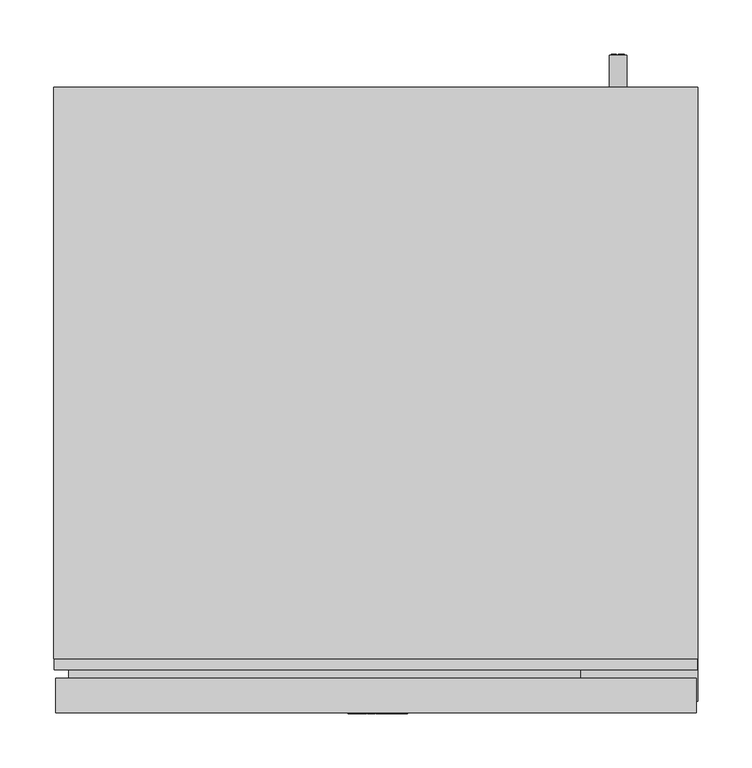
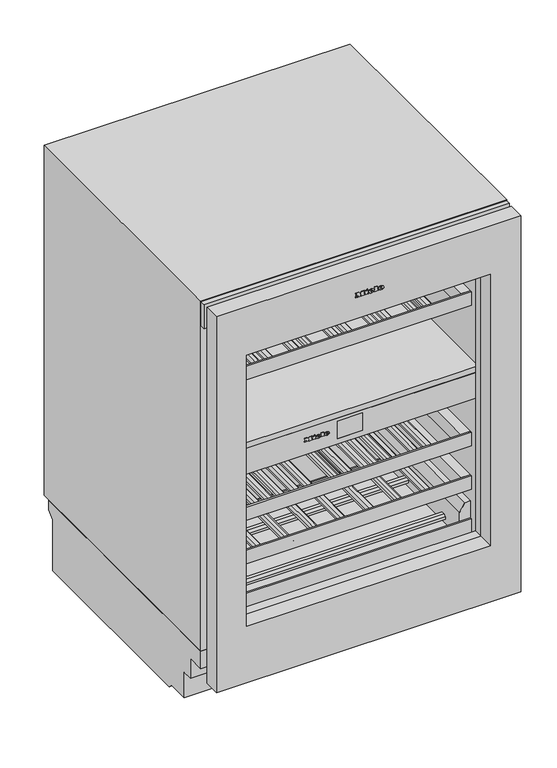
"""IFC4 building model written with IfcOpenShell, lengths in millimetres: proxy geometry, 12519660_EU1_KWTUS7196E_OBSW : 39719610_EU1_12519660_KWTUS7196E_OBSW."""

from ifc_helpers import new_model, si_unit, point, frame, frame_2d, origin, origin_with_axes, place, context, project, spatial, polyline, circle_curve, ellipse_curve, trimmed, segment, composite_curve, outline, extrude, faceted_brep, source, transform, mapped, element, save
from ifc_brep_helpers import plane_surface, cylinder_surface, revolved_surface, extruded_surface, advanced_brep


def specialty_equipment_9c25adbb(model_context):
    return source(origin(), model_context, "Body", "SolidModel", [
        extrude(outline(polyline([(808.991, -25.542), (808.991, -24.453), (802.97, -24.453), (802.97, -25.542), (801.458, -25.542), (801.458, -21.582), (802.97, -21.582), (802.97, -22.662), (806.7921247, -22.662), (801.458, -18.639), (806.8982223, -14.598), (802.97, -14.598), (802.97, -15.705), (801.458, -15.705), (801.458, -8.523), (802.97, -8.523), (802.97, -9.666), (808.991, -9.666), (808.991, -8.523), (810.458, -8.523), (810.458, -14.004), (807.083, -16.632), (810.458, -19.269), (810.458, -25.542), (808.991, -25.542)])), frame((0.0, -1.0, 0.0), z_axis=(0.0, 1.0, 0.0), x_axis=(0.0, 0.0, 1.0)), (0.0, 0.0, 1.0), 1.0),
        extrude(outline(polyline([(808.991, 10.98), (808.991, 12.06), (802.97, 12.06), (802.97, 10.98), (801.458, 10.98), (801.458, 18.279), (802.97, 18.279), (802.97, 17.172), (810.458, 17.172), (810.458, 10.98), (808.991, 10.98)])), frame((0.0, -1.0, 0.0), z_axis=(0.0, 1.0, 0.0), x_axis=(0.0, 0.0, 1.0)), (0.0, 0.0, 1.0), 1.0),
        extrude(outline(polyline([(809.927, -5.382), (808.469, -4.698), (809.891, -1.647), (811.349, -2.322), (809.927, -5.382)])), frame((0.0, -1.0, 0.0), z_axis=(0.0, 1.0, 0.0), x_axis=(0.0, 0.0, 1.0)), (0.0, 0.0, 1.0), 1.0),
        extrude(outline(polyline([(808.271, -7.605), (806.66, -7.605), (806.66, -6.534), (802.97, -6.534), (802.97, -7.605), (801.458, -7.605), (801.458, -0.504), (802.97, -0.504), (802.97, -1.548), (808.271, -1.548), (808.271, -7.605)])), frame((0.0, -1.0, 0.0), z_axis=(0.0, 1.0, 0.0), x_axis=(0.0, 0.0, 1.0)), (0.0, 0.0, 1.0), 1.0),
        advanced_brep(
        [(4.455, -1.0, 803.591), (4.455, -1.0, 804.5), (10.476, -1.0, 804.5), (0.0, -1.0, 804.5), (2.475, -1.0, 801.458), (10.323, -1.0, 803.591), (7.605, -1.0, 803.591), (5.463, -1.0, 802.583), (4.455, -1.0, 805.652), (4.455, -1.0, 806.633), (5.994, -1.0, 806.633), (5.994, -1.0, 805.652), (4.455, 0.0, 803.591), (5.463, 0.0, 802.583), (7.605, 0.0, 803.591), (10.323, 0.0, 803.591), (2.475, 0.0, 801.458), (0.0, 0.0, 804.5), (10.476, 0.0, 804.5), (4.455, 0.0, 804.5), (4.455, 0.0, 805.652), (5.994, 0.0, 805.652), (5.994, 0.0, 806.633), (4.455, 0.0, 806.633)],
        [
            (0, 1),
            (1, 2),
            (2, 3, ellipse_curve(frame((5.238, -1.0, 804.5), z_axis=(0.0, -1.0, 0.0), x_axis=(-1.0, 0.0, 0.0)), 5.238, 4.329)),
            (3, 4, circle_curve(frame((3.4830491, -1.0, 804.806), z_axis=(0.0, -1.0, 0.0), x_axis=(0.0, 0.0, -1.0)), 3.4964649)),
            (4, 5, circle_curve(frame((5.1331428, -1.0, 807.182), z_axis=(0.0, -1.0, 0.0), x_axis=(0.0, 0.0, -1.0)), 6.3110933)),
            (5, 6),
            (6, 7, circle_curve(frame((5.9029412, -1.0, 804.428), z_axis=(0.0, 1.0, 0.0), x_axis=(0.0, 0.0, -1.0)), 1.896727)),
            (7, 0, circle_curve(frame((5.463, -1.0, 803.591), z_axis=(0.0, 1.0, 0.0), x_axis=(0.0, 0.0, -1.0)), 1.008)),
            (8, 9),
            (9, 10, circle_curve(frame((5.2245, -1.0, 806.633), z_axis=(0.0, 1.0, 0.0), x_axis=(0.0, 0.0, -1.0)), 0.7695)),
            (10, 11),
            (11, 8),
            (12, 13, circle_curve(frame((5.463, 0.0, 803.591), z_axis=(0.0, -1.0, 0.0), x_axis=(0.0, 0.0, -1.0)), 1.008)),
            (13, 14, circle_curve(frame((5.9029412, 0.0, 804.428), z_axis=(0.0, -1.0, 0.0), x_axis=(0.0, 0.0, -1.0)), 1.896727)),
            (14, 15),
            (15, 16, circle_curve(frame((5.1331428, 0.0, 807.182), z_axis=(0.0, 1.0, 0.0), x_axis=(0.0, 0.0, -1.0)), 6.3110933)),
            (16, 17, circle_curve(frame((3.4830491, 0.0, 804.806), z_axis=(0.0, 1.0, 0.0), x_axis=(0.0, 0.0, -1.0)), 3.4964649)),
            (17, 18, ellipse_curve(frame((5.238, 0.0, 804.5), z_axis=(0.0, 1.0, 0.0), x_axis=(-1.0, 0.0, 0.0)), 5.238, 4.329)),
            (18, 19),
            (19, 12),
            (20, 21),
            (21, 22),
            (22, 23, circle_curve(frame((5.2245, 0.0, 806.633), z_axis=(0.0, -1.0, 0.0), x_axis=(0.0, 0.0, -1.0)), 0.7695)),
            (23, 20),
            (0, 12),
            (19, 1),
            (18, 2),
            (5, 15),
            (14, 6),
            (17, 3),
            (13, 7),
            (16, 4),
            (8, 20),
            (23, 9),
            (22, 10),
            (21, 11),
        ],
        [
            plane_surface(frame((4.455, -1.0, 804.5), z_axis=(0.0, -1.0, 0.0), x_axis=(0.0, 0.0, 1.0))),
            plane_surface(frame((4.455, 0.0, 804.5), z_axis=(0.0, 1.0, 0.0), x_axis=(0.0, 0.0, -1.0))),
            plane_surface(frame((4.455, -1.0, 803.591), z_axis=(1.0, 0.0, 0.0), x_axis=(0.0, 1.0, 0.0))),
            plane_surface(frame((4.455, -1.0, 804.5), z_axis=(0.0, 0.0, -1.0), x_axis=(0.0, 1.0, 0.0))),
            plane_surface(frame((10.323, -1.0, 803.591), z_axis=(0.0, 0.0, 1.0), x_axis=(0.0, 1.0, 0.0))),
            extruded_surface(trimmed(ellipse_curve(frame((5.238, 1.0, 804.5), z_axis=(0.0, -1.0, 0.0), x_axis=(-1.0, 0.0, 0.0)), 5.238, 4.329), [point((10.476, 1.0, 804.5))], [point((0.0, 1.0, 804.5))], True, "CARTESIAN"), (0.0, -1.0, 0.0), 1.0),
            revolved_surface(polyline([(5.9029412, 0.0, 802.5312729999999), (5.9029412, -1.0, 802.5312729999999)]), (5.9029412, 0.0, 804.428), (0.0, 1.0, 0.0)),
            revolved_surface(polyline([(5.463, 0.0, 802.583), (5.463, -1.0, 802.583)]), (5.463, 0.0, 803.591), (0.0, 1.0, 0.0)),
            cylinder_surface(frame((3.4830491, 0.0, 804.806), z_axis=(0.0, -1.0, 0.0), x_axis=(0.0, 0.0, -1.0)), 3.4964649),
            cylinder_surface(frame((5.1331428, 0.0, 807.182), z_axis=(0.0, -1.0, 0.0), x_axis=(0.0, 0.0, -1.0)), 6.3110933),
            plane_surface(frame((4.455, -1.0, 805.652), z_axis=(1.0, 0.0, 0.0), x_axis=(0.0, 1.0, 0.0))),
            revolved_surface(polyline([(5.2245, 0.0, 805.8635), (5.2245, -1.0, 805.8635)]), (5.2245, 0.0, 806.633), (0.0, 1.0, 0.0)),
            plane_surface(frame((5.994, -1.0, 806.633), z_axis=(-1.0, 0.0, 0.0), x_axis=(0.0, 1.0, 0.0))),
            plane_surface(frame((5.994, -1.0, 805.652), z_axis=(0.0, 0.0, 1.0), x_axis=(0.0, 1.0, 0.0))),
        ],
        [
            (0, [[1, 2, 3, 4, 5, 6, 7, 8], [9, 10, 11, 12]]),
            (1, [[13, 14, 15, 16, 17, 18, 19, 20], [21, 22, 23, 24]]),
            (2, [[-1, 25, -20, 26]]),
            (3, [[-2, -26, -19, 27]]),
            (4, [[-6, 28, -15, 29]]),
            (5, [[-3, -27, -18, 30]]),
            (6, [[-7, -29, -14, 31]]),
            (7, [[-8, -31, -13, -25]]),
            (8, [[-4, -30, -17, 32]]),
            (9, [[-5, -32, -16, -28]]),
            (10, [[-9, 33, -24, 34]]),
            (11, [[-10, -34, -23, 35]]),
            (12, [[-11, -35, -22, 36]]),
            (13, [[-12, -36, -21, -33]]),
        ],
    ),
        advanced_brep(
        [(23.238, -1.0, 803.591), (23.238, -1.0, 804.5), (29.259, -1.0, 804.5), (18.783, -1.0, 804.5), (21.258, -1.0, 801.458), (29.106, -1.0, 803.591), (26.388, -1.0, 803.591), (24.246, -1.0, 802.583), (23.238, -1.0, 805.652), (23.238, -1.0, 806.633), (24.777, -1.0, 806.633), (24.777, -1.0, 805.652), (23.238, 0.0, 803.591), (24.246, 0.0, 802.583), (26.388, 0.0, 803.591), (29.106, 0.0, 803.591), (21.258, 0.0, 801.458), (18.783, 0.0, 804.5), (29.259, 0.0, 804.5), (23.238, 0.0, 804.5), (23.238, 0.0, 805.652), (24.777, 0.0, 805.652), (24.777, 0.0, 806.633), (23.238, 0.0, 806.633)],
        [
            (0, 1),
            (1, 2),
            (2, 3, ellipse_curve(frame((24.021, -1.0, 804.5), z_axis=(0.0, -1.0, 0.0), x_axis=(-1.0, 0.0, 0.0)), 5.238, 4.329)),
            (3, 4, circle_curve(frame((22.2660491, -1.0, 804.806), z_axis=(0.0, -1.0, 0.0), x_axis=(0.0, 0.0, -1.0)), 3.4964649)),
            (4, 5, circle_curve(frame((23.9161428, -1.0, 807.182), z_axis=(0.0, -1.0, 0.0), x_axis=(0.0, 0.0, -1.0)), 6.3110933)),
            (5, 6),
            (6, 7, circle_curve(frame((24.6859412, -1.0, 804.428), z_axis=(0.0, 1.0, 0.0), x_axis=(0.0, 0.0, -1.0)), 1.896727)),
            (7, 0, circle_curve(frame((24.246, -1.0, 803.591), z_axis=(0.0, 1.0, 0.0), x_axis=(0.0, 0.0, -1.0)), 1.008)),
            (8, 9),
            (9, 10, circle_curve(frame((24.0075, -1.0, 806.633), z_axis=(0.0, 1.0, 0.0), x_axis=(0.0, 0.0, -1.0)), 0.7695)),
            (10, 11),
            (11, 8),
            (12, 13, circle_curve(frame((24.246, 0.0, 803.591), z_axis=(0.0, -1.0, 0.0), x_axis=(0.0, 0.0, -1.0)), 1.008)),
            (13, 14, circle_curve(frame((24.6859412, 0.0, 804.428), z_axis=(0.0, -1.0, 0.0), x_axis=(0.0, 0.0, -1.0)), 1.896727)),
            (14, 15),
            (15, 16, circle_curve(frame((23.9161428, 0.0, 807.182), z_axis=(0.0, 1.0, 0.0), x_axis=(0.0, 0.0, -1.0)), 6.3110933)),
            (16, 17, circle_curve(frame((22.2660491, 0.0, 804.806), z_axis=(0.0, 1.0, 0.0), x_axis=(0.0, 0.0, -1.0)), 3.4964649)),
            (17, 18, ellipse_curve(frame((24.021, 0.0, 804.5), z_axis=(0.0, 1.0, 0.0), x_axis=(-1.0, 0.0, 0.0)), 5.238, 4.329)),
            (18, 19),
            (19, 12),
            (20, 21),
            (21, 22),
            (22, 23, circle_curve(frame((24.0075, 0.0, 806.633), z_axis=(0.0, -1.0, 0.0), x_axis=(0.0, 0.0, -1.0)), 0.7695)),
            (23, 20),
            (0, 12),
            (19, 1),
            (18, 2),
            (5, 15),
            (14, 6),
            (17, 3),
            (13, 7),
            (16, 4),
            (8, 20),
            (23, 9),
            (22, 10),
            (21, 11),
        ],
        [
            plane_surface(frame((23.238, -1.0, 804.5), z_axis=(0.0, -1.0, 0.0), x_axis=(0.0, 0.0, 1.0))),
            plane_surface(frame((23.238, 0.0, 804.5), z_axis=(0.0, 1.0, 0.0), x_axis=(0.0, 0.0, -1.0))),
            plane_surface(frame((23.238, -1.0, 803.591), z_axis=(1.0, 0.0, 0.0), x_axis=(0.0, 1.0, 0.0))),
            plane_surface(frame((23.238, -1.0, 804.5), z_axis=(0.0, 0.0, -1.0), x_axis=(0.0, 1.0, 0.0))),
            plane_surface(frame((29.106, -1.0, 803.591), z_axis=(0.0, 0.0, 1.0), x_axis=(0.0, 1.0, 0.0))),
            extruded_surface(trimmed(ellipse_curve(frame((24.021, 1.0, 804.5), z_axis=(0.0, -1.0, 0.0), x_axis=(-1.0, 0.0, 0.0)), 5.238, 4.329), [point((29.259, 1.0, 804.5))], [point((18.783, 1.0, 804.5))], True, "CARTESIAN"), (0.0, -1.0, 0.0), 1.0),
            revolved_surface(polyline([(24.6859412, 0.0, 802.5312729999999), (24.6859412, -1.0, 802.5312729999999)]), (24.6859412, 0.0, 804.428), (0.0, 1.0, 0.0)),
            revolved_surface(polyline([(24.246, 0.0, 802.583), (24.246, -1.0, 802.583)]), (24.246, 0.0, 803.591), (0.0, 1.0, 0.0)),
            cylinder_surface(frame((22.2660491, 0.0, 804.806), z_axis=(0.0, -1.0, 0.0), x_axis=(0.0, 0.0, -1.0)), 3.4964649),
            cylinder_surface(frame((23.9161428, 0.0, 807.182), z_axis=(0.0, -1.0, 0.0), x_axis=(0.0, 0.0, -1.0)), 6.3110933),
            plane_surface(frame((23.238, -1.0, 805.652), z_axis=(1.0, 0.0, 0.0), x_axis=(0.0, 1.0, 0.0))),
            revolved_surface(polyline([(24.0075, 0.0, 805.8635), (24.0075, -1.0, 805.8635)]), (24.0075, 0.0, 806.633), (0.0, 1.0, 0.0)),
            plane_surface(frame((24.777, -1.0, 806.633), z_axis=(-1.0, 0.0, 0.0), x_axis=(0.0, 1.0, 0.0))),
            plane_surface(frame((24.777, -1.0, 805.652), z_axis=(0.0, 0.0, 1.0), x_axis=(0.0, 1.0, 0.0))),
        ],
        [
            (0, [[1, 2, 3, 4, 5, 6, 7, 8], [9, 10, 11, 12]]),
            (1, [[13, 14, 15, 16, 17, 18, 19, 20], [21, 22, 23, 24]]),
            (2, [[-1, 25, -20, 26]]),
            (3, [[-2, -26, -19, 27]]),
            (4, [[-6, 28, -15, 29]]),
            (5, [[-3, -27, -18, 30]]),
            (6, [[-7, -29, -14, 31]]),
            (7, [[-8, -31, -13, -25]]),
            (8, [[-4, -30, -17, 32]]),
            (9, [[-5, -32, -16, -28]]),
            (10, [[-9, 33, -24, 34]]),
            (11, [[-10, -34, -23, 35]]),
            (12, [[-11, -35, -22, 36]]),
            (13, [[-12, -36, -21, -33]]),
        ],
    ),
        extrude(outline(polyline([(494.1556157, -89.367984), (494.1556157, -88.399984), (488.8036157, -88.399984), (488.8036157, -89.367984), (487.4596157, -89.367984), (487.4596157, -85.847984), (488.8036157, -85.847984), (488.8036157, -86.807984), (492.2067404, -86.807984), (487.4596157, -83.231984), (492.274838, -79.639984), (488.8036157, -79.639984), (488.8036157, -80.623984), (487.4596157, -80.623984), (487.4596157, -74.239984), (488.8036157, -74.239984), (488.8036157, -75.255984), (494.1556157, -75.255984), (494.1556157, -74.239984), (495.4596157, -74.239984), (495.4596157, -79.111984), (492.4596157, -81.447984), (495.4596157, -83.791984), (495.4596157, -89.367984), (494.1556157, -89.367984)])), frame((0.0, 62.0, 0.0), z_axis=(0.0, 1.0, 0.0), x_axis=(0.0, 0.0, 1.0)), (0.0, 0.0, 1.0), 1.0),
        extrude(outline(polyline([(494.1556157, -56.903984), (494.1556157, -55.943984), (488.8036157, -55.943984), (488.8036157, -56.903984), (487.4596157, -56.903984), (487.4596157, -50.415984), (488.8036157, -50.415984), (488.8036157, -51.399984), (495.4596157, -51.399984), (495.4596157, -56.903984), (494.1556157, -56.903984)])), frame((0.0, 62.0, 0.0), z_axis=(0.0, 1.0, 0.0), x_axis=(0.0, 0.0, 1.0)), (0.0, 0.0, 1.0), 1.0),
        extrude(outline(polyline([(494.9876157, -71.447984), (493.6916157, -70.839984), (494.9556157, -68.127984), (496.2516157, -68.727984), (494.9876157, -71.447984)])), frame((0.0, 62.0, 0.0), z_axis=(0.0, 1.0, 0.0), x_axis=(0.0, 0.0, 1.0)), (0.0, 0.0, 1.0), 1.0),
        extrude(outline(polyline([(493.5156157, -73.423984), (492.0836157, -73.423984), (492.0836157, -72.471984), (488.8036157, -72.471984), (488.8036157, -73.423984), (487.4596157, -73.423984), (487.4596157, -67.111984), (488.8036157, -67.111984), (488.8036157, -68.039984), (493.5156157, -68.039984), (493.5156157, -73.423984)])), frame((0.0, 62.0, 0.0), z_axis=(0.0, 1.0, 0.0), x_axis=(0.0, 0.0, 1.0)), (0.0, 0.0, 1.0), 1.0),
        advanced_brep(
        [(-62.703984, 62.0, 489.3556157), (-62.703984, 62.0, 490.1636157), (-57.351984, 62.0, 490.1636157), (-66.663984, 62.0, 490.1636157), (-64.463984, 62.0, 487.4596157), (-57.487984, 62.0, 489.3556157), (-59.903984, 62.0, 489.3556157), (-61.807984, 62.0, 488.4596157), (-62.703984, 62.0, 491.1876157), (-62.703984, 62.0, 492.0596157), (-61.335984, 62.0, 492.0596157), (-61.335984, 62.0, 491.1876157), (-62.703984, 63.0, 489.3556157), (-61.807984, 63.0, 488.4596157), (-59.903984, 63.0, 489.3556157), (-57.487984, 63.0, 489.3556157), (-64.463984, 63.0, 487.4596157), (-66.663984, 63.0, 490.1636157), (-57.351984, 63.0, 490.1636157), (-62.703984, 63.0, 490.1636157), (-62.703984, 63.0, 491.1876157), (-61.335984, 63.0, 491.1876157), (-61.335984, 63.0, 492.0596157), (-62.703984, 63.0, 492.0596157)],
        [
            (0, 1),
            (1, 2),
            (2, 3, ellipse_curve(frame((-62.007984, 62.0, 490.1636157), z_axis=(0.0, -1.0, 0.0), x_axis=(-1.0, 0.0, 0.0)), 4.656, 3.848)),
            (3, 4, circle_curve(frame((-63.5679404, 62.0, 490.4356157), z_axis=(0.0, -1.0, 0.0), x_axis=(0.0, 0.0, -1.0)), 3.1079688)),
            (4, 5, circle_curve(frame((-62.1011904, 62.0, 492.5476157), z_axis=(0.0, -1.0, 0.0), x_axis=(0.0, 0.0, -1.0)), 5.6098607)),
            (5, 6),
            (6, 7, circle_curve(frame((-61.4169252, 62.0, 490.0996157), z_axis=(0.0, 1.0, 0.0), x_axis=(0.0, 0.0, -1.0)), 1.6859795)),
            (7, 0, circle_curve(frame((-61.807984, 62.0, 489.3556157), z_axis=(0.0, 1.0, 0.0), x_axis=(0.0, 0.0, -1.0)), 0.896)),
            (8, 9),
            (9, 10, circle_curve(frame((-62.019984, 62.0, 492.0596157), z_axis=(0.0, 1.0, 0.0), x_axis=(0.0, 0.0, -1.0)), 0.684)),
            (10, 11),
            (11, 8),
            (12, 13, circle_curve(frame((-61.807984, 63.0, 489.3556157), z_axis=(0.0, -1.0, 0.0), x_axis=(0.0, 0.0, -1.0)), 0.896)),
            (13, 14, circle_curve(frame((-61.4169252, 63.0, 490.0996157), z_axis=(0.0, -1.0, 0.0), x_axis=(0.0, 0.0, -1.0)), 1.6859795)),
            (14, 15),
            (15, 16, circle_curve(frame((-62.1011904, 63.0, 492.5476157), z_axis=(0.0, 1.0, 0.0), x_axis=(0.0, 0.0, -1.0)), 5.6098607)),
            (16, 17, circle_curve(frame((-63.5679404, 63.0, 490.4356157), z_axis=(0.0, 1.0, 0.0), x_axis=(0.0, 0.0, -1.0)), 3.1079688)),
            (17, 18, ellipse_curve(frame((-62.007984, 63.0, 490.1636157), z_axis=(0.0, 1.0, 0.0), x_axis=(-1.0, 0.0, 0.0)), 4.656, 3.848)),
            (18, 19),
            (19, 12),
            (20, 21),
            (21, 22),
            (22, 23, circle_curve(frame((-62.019984, 63.0, 492.0596157), z_axis=(0.0, -1.0, 0.0), x_axis=(0.0, 0.0, -1.0)), 0.684)),
            (23, 20),
            (0, 12),
            (19, 1),
            (18, 2),
            (5, 15),
            (14, 6),
            (17, 3),
            (13, 7),
            (16, 4),
            (8, 20),
            (23, 9),
            (22, 10),
            (21, 11),
        ],
        [
            plane_surface(frame((-62.703984, 62.0, 490.1636157), z_axis=(0.0, -1.0, 0.0), x_axis=(0.0, 0.0, 1.0))),
            plane_surface(frame((-62.703984, 63.0, 490.1636157), z_axis=(0.0, 1.0, 0.0), x_axis=(0.0, 0.0, -1.0))),
            plane_surface(frame((-62.703984, 62.0, 489.3556157), z_axis=(1.0, 0.0, 0.0), x_axis=(0.0, 1.0, 0.0))),
            plane_surface(frame((-62.703984, 62.0, 490.1636157), z_axis=(0.0, 0.0, -1.0), x_axis=(0.0, 1.0, 0.0))),
            plane_surface(frame((-57.487984, 62.0, 489.3556157), z_axis=(0.0, 0.0, 1.0), x_axis=(0.0, 1.0, 0.0))),
            extruded_surface(trimmed(ellipse_curve(frame((-62.007984, 64.0, 490.1636157), z_axis=(0.0, -1.0, 0.0), x_axis=(-1.0, 0.0, 0.0)), 4.656, 3.848), [point((-57.351984, 64.0, 490.1636157))], [point((-66.663984, 64.0, 490.1636157))], True, "CARTESIAN"), (0.0, -1.0, 0.0), 1.0),
            revolved_surface(polyline([(-61.4169252, 63.0, 488.41363620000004), (-61.4169252, 62.0, 488.41363620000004)]), (-61.4169252, 63.0, 490.0996157), (0.0, 1.0, 0.0)),
            revolved_surface(polyline([(-61.807984, 63.0, 488.4596157), (-61.807984, 62.0, 488.4596157)]), (-61.807984, 63.0, 489.3556157), (0.0, 1.0, 0.0)),
            cylinder_surface(frame((-63.5679404, 63.0, 490.4356157), z_axis=(0.0, -1.0, 0.0), x_axis=(0.0, 0.0, -1.0)), 3.1079688),
            cylinder_surface(frame((-62.1011904, 63.0, 492.5476157), z_axis=(0.0, -1.0, 0.0), x_axis=(0.0, 0.0, -1.0)), 5.6098607),
            plane_surface(frame((-62.703984, 62.0, 491.1876157), z_axis=(1.0, 0.0, 0.0), x_axis=(0.0, 1.0, 0.0))),
            revolved_surface(polyline([(-62.019984, 63.0, 491.37561569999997), (-62.019984, 62.0, 491.37561569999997)]), (-62.019984, 63.0, 492.0596157), (0.0, 1.0, 0.0)),
            plane_surface(frame((-61.335984, 62.0, 492.0596157), z_axis=(-1.0, 0.0, 0.0), x_axis=(0.0, 1.0, 0.0))),
            plane_surface(frame((-61.335984, 62.0, 491.1876157), z_axis=(0.0, 0.0, 1.0), x_axis=(0.0, 1.0, 0.0))),
        ],
        [
            (0, [[1, 2, 3, 4, 5, 6, 7, 8], [9, 10, 11, 12]]),
            (1, [[13, 14, 15, 16, 17, 18, 19, 20], [21, 22, 23, 24]]),
            (2, [[-1, 25, -20, 26]]),
            (3, [[-2, -26, -19, 27]]),
            (4, [[-6, 28, -15, 29]]),
            (5, [[-3, -27, -18, 30]]),
            (6, [[-7, -29, -14, 31]]),
            (7, [[-8, -31, -13, -25]]),
            (8, [[-4, -30, -17, 32]]),
            (9, [[-5, -32, -16, -28]]),
            (10, [[-9, 33, -24, 34]]),
            (11, [[-10, -34, -23, 35]]),
            (12, [[-11, -35, -22, 36]]),
            (13, [[-12, -36, -21, -33]]),
        ],
    ),
        advanced_brep(
        [(-46.007984, 62.0, 489.3556157), (-46.007984, 62.0, 490.1636157), (-40.655984, 62.0, 490.1636157), (-49.967984, 62.0, 490.1636157), (-47.767984, 62.0, 487.4596157), (-40.791984, 62.0, 489.3556157), (-43.207984, 62.0, 489.3556157), (-45.111984, 62.0, 488.4596157), (-46.007984, 62.0, 491.1876157), (-46.007984, 62.0, 492.0596157), (-44.639984, 62.0, 492.0596157), (-44.639984, 62.0, 491.1876157), (-46.007984, 63.0, 489.3556157), (-45.111984, 63.0, 488.4596157), (-43.207984, 63.0, 489.3556157), (-40.791984, 63.0, 489.3556157), (-47.767984, 63.0, 487.4596157), (-49.967984, 63.0, 490.1636157), (-40.655984, 63.0, 490.1636157), (-46.007984, 63.0, 490.1636157), (-46.007984, 63.0, 491.1876157), (-44.639984, 63.0, 491.1876157), (-44.639984, 63.0, 492.0596157), (-46.007984, 63.0, 492.0596157)],
        [
            (0, 1),
            (1, 2),
            (2, 3, ellipse_curve(frame((-45.311984, 62.0, 490.1636157), z_axis=(0.0, -1.0, 0.0), x_axis=(-1.0, 0.0, 0.0)), 4.656, 3.848)),
            (3, 4, circle_curve(frame((-46.8719404, 62.0, 490.4356157), z_axis=(0.0, -1.0, 0.0), x_axis=(0.0, 0.0, -1.0)), 3.1079688)),
            (4, 5, circle_curve(frame((-45.4051904, 62.0, 492.5476157), z_axis=(0.0, -1.0, 0.0), x_axis=(0.0, 0.0, -1.0)), 5.6098607)),
            (5, 6),
            (6, 7, circle_curve(frame((-44.7209252, 62.0, 490.0996157), z_axis=(0.0, 1.0, 0.0), x_axis=(0.0, 0.0, -1.0)), 1.6859795)),
            (7, 0, circle_curve(frame((-45.111984, 62.0, 489.3556157), z_axis=(0.0, 1.0, 0.0), x_axis=(0.0, 0.0, -1.0)), 0.896)),
            (8, 9),
            (9, 10, circle_curve(frame((-45.323984, 62.0, 492.0596157), z_axis=(0.0, 1.0, 0.0), x_axis=(0.0, 0.0, -1.0)), 0.684)),
            (10, 11),
            (11, 8),
            (12, 13, circle_curve(frame((-45.111984, 63.0, 489.3556157), z_axis=(0.0, -1.0, 0.0), x_axis=(0.0, 0.0, -1.0)), 0.896)),
            (13, 14, circle_curve(frame((-44.7209252, 63.0, 490.0996157), z_axis=(0.0, -1.0, 0.0), x_axis=(0.0, 0.0, -1.0)), 1.6859795)),
            (14, 15),
            (15, 16, circle_curve(frame((-45.4051904, 63.0, 492.5476157), z_axis=(0.0, 1.0, 0.0), x_axis=(0.0, 0.0, -1.0)), 5.6098607)),
            (16, 17, circle_curve(frame((-46.8719404, 63.0, 490.4356157), z_axis=(0.0, 1.0, 0.0), x_axis=(0.0, 0.0, -1.0)), 3.1079688)),
            (17, 18, ellipse_curve(frame((-45.311984, 63.0, 490.1636157), z_axis=(0.0, 1.0, 0.0), x_axis=(-1.0, 0.0, 0.0)), 4.656, 3.848)),
            (18, 19),
            (19, 12),
            (20, 21),
            (21, 22),
            (22, 23, circle_curve(frame((-45.323984, 63.0, 492.0596157), z_axis=(0.0, -1.0, 0.0), x_axis=(0.0, 0.0, -1.0)), 0.684)),
            (23, 20),
            (0, 12),
            (19, 1),
            (18, 2),
            (5, 15),
            (14, 6),
            (17, 3),
            (13, 7),
            (16, 4),
            (8, 20),
            (23, 9),
            (22, 10),
            (21, 11),
        ],
        [
            plane_surface(frame((-46.007984, 62.0, 490.1636157), z_axis=(0.0, -1.0, 0.0), x_axis=(0.0, 0.0, 1.0))),
            plane_surface(frame((-46.007984, 63.0, 490.1636157), z_axis=(0.0, 1.0, 0.0), x_axis=(0.0, 0.0, -1.0))),
            plane_surface(frame((-46.007984, 62.0, 489.3556157), z_axis=(1.0, 0.0, 0.0), x_axis=(0.0, 1.0, 0.0))),
            plane_surface(frame((-46.007984, 62.0, 490.1636157), z_axis=(0.0, 0.0, -1.0), x_axis=(0.0, 1.0, 0.0))),
            plane_surface(frame((-40.791984, 62.0, 489.3556157), z_axis=(0.0, 0.0, 1.0), x_axis=(0.0, 1.0, 0.0))),
            extruded_surface(trimmed(ellipse_curve(frame((-45.311984, 64.0, 490.1636157), z_axis=(0.0, -1.0, 0.0), x_axis=(-1.0, 0.0, 0.0)), 4.656, 3.848), [point((-40.655984, 64.0, 490.1636157))], [point((-49.967984, 64.0, 490.1636157))], True, "CARTESIAN"), (0.0, -1.0, 0.0), 1.0),
            revolved_surface(polyline([(-44.7209252, 63.0, 488.41363620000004), (-44.7209252, 62.0, 488.41363620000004)]), (-44.7209252, 63.0, 490.0996157), (0.0, 1.0, 0.0)),
            revolved_surface(polyline([(-45.111984, 63.0, 488.4596157), (-45.111984, 62.0, 488.4596157)]), (-45.111984, 63.0, 489.3556157), (0.0, 1.0, 0.0)),
            cylinder_surface(frame((-46.8719404, 63.0, 490.4356157), z_axis=(0.0, -1.0, 0.0), x_axis=(0.0, 0.0, -1.0)), 3.1079688),
            cylinder_surface(frame((-45.4051904, 63.0, 492.5476157), z_axis=(0.0, -1.0, 0.0), x_axis=(0.0, 0.0, -1.0)), 5.6098607),
            plane_surface(frame((-46.007984, 62.0, 491.1876157), z_axis=(1.0, 0.0, 0.0), x_axis=(0.0, 1.0, 0.0))),
            revolved_surface(polyline([(-45.323984, 63.0, 491.37561569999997), (-45.323984, 62.0, 491.37561569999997)]), (-45.323984, 63.0, 492.0596157), (0.0, 1.0, 0.0)),
            plane_surface(frame((-44.639984, 62.0, 492.0596157), z_axis=(-1.0, 0.0, 0.0), x_axis=(0.0, 1.0, 0.0))),
            plane_surface(frame((-44.639984, 62.0, 491.1876157), z_axis=(0.0, 0.0, 1.0), x_axis=(0.0, 1.0, 0.0))),
        ],
        [
            (0, [[1, 2, 3, 4, 5, 6, 7, 8], [9, 10, 11, 12]]),
            (1, [[13, 14, 15, 16, 17, 18, 19, 20], [21, 22, 23, 24]]),
            (2, [[-1, 25, -20, 26]]),
            (3, [[-2, -26, -19, 27]]),
            (4, [[-6, 28, -15, 29]]),
            (5, [[-3, -27, -18, 30]]),
            (6, [[-7, -29, -14, 31]]),
            (7, [[-8, -31, -13, -25]]),
            (8, [[-4, -30, -17, 32]]),
            (9, [[-5, -32, -16, -28]]),
            (10, [[-9, 33, -24, 34]]),
            (11, [[-10, -34, -23, 35]]),
            (12, [[-11, -35, -22, 36]]),
            (13, [[-12, -36, -21, -33]]),
        ],
    ),
        extrude(outline(polyline([(278.8, -157.5), (283.5052612, -157.5), (287.5052612, -161.5), (287.5052612, -168.5), (283.5052612, -172.5), (278.8, -172.5), (278.8, -157.5)])), frame((0.0, 68.5000244, 0.0), z_axis=(0.0, 1.0, 0.0), x_axis=(0.0, 0.0, 1.0)), (0.0, 0.0, 1.0), 419.111792),
        extrude(outline(polyline([(278.8, -102.5), (283.5052612, -102.5), (287.5052612, -106.5), (287.5052612, -113.5), (283.5052612, -117.5), (278.8, -117.5), (278.8, -102.5)])), frame((0.0, 68.5000244, 0.0), z_axis=(0.0, 1.0, 0.0), x_axis=(0.0, 0.0, 1.0)), (0.0, 0.0, 1.0), 419.111792),
        extrude(outline(polyline([(278.8, 157.5), (278.8, 172.5), (283.5052612, 172.5), (287.5052612, 168.5), (287.5052612, 161.5), (283.5052612, 157.5), (278.8, 157.5)])), frame((0.0, 68.5000244, 0.0), z_axis=(0.0, 1.0, 0.0), x_axis=(0.0, 0.0, 1.0)), (0.0, 0.0, 1.0), 419.111792),
        extrude(outline(polyline([(278.8, 102.5), (278.8, 117.5), (283.5052612, 117.5), (287.5052612, 113.5), (287.5052612, 106.5), (283.5052612, 102.5), (278.8, 102.5)])), frame((0.0, 68.5000244, 0.0), z_axis=(0.0, 1.0, 0.0), x_axis=(0.0, 0.0, 1.0)), (0.0, 0.0, 1.0), 419.111792),
        extrude(outline(polyline([(278.8, -47.5), (283.5052612, -47.5), (287.5052612, -51.5), (287.5052612, -58.5), (283.5052612, -62.5), (278.8, -62.5), (278.8, -47.5)])), frame((0.0, 68.5000244, 0.0), z_axis=(0.0, 1.0, 0.0), x_axis=(0.0, 0.0, 1.0)), (0.0, 0.0, 1.0), 419.111792),
        extrude(outline(polyline([(278.8, 47.5), (278.8, 62.5), (283.5052612, 62.5), (287.5052612, 58.5), (287.5052612, 51.5), (283.5052612, 47.5), (278.8, 47.5)])), frame((0.0, 68.5000244, 0.0), z_axis=(0.0, 1.0, 0.0), x_axis=(0.0, 0.0, 1.0)), (0.0, 0.0, 1.0), 419.111792),
        extrude(outline(polyline([(278.8, 7.5), (283.5052612, 7.5), (287.5052612, 3.5), (287.5052612, -3.5), (283.5052612, -7.5), (278.8, -7.5), (278.8, 7.5)])), frame((0.0, 68.5000244, 0.0), z_axis=(0.0, 1.0, 0.0), x_axis=(0.0, 0.0, 1.0)), (0.0, 0.0, 1.0), 419.111792),
        extrude(outline(polyline([(238.5, 65.0000244), (-238.5, 65.0000244), (-238.5, 68.5000244), (238.5, 68.5000244), (238.5, 65.0000244)])), frame((0.0, 0.0, 186.0), z_axis=(0.0, 0.0, 1.0), x_axis=(1.0, 0.0, 0.0)), (0.0, 0.0, 1.0), 27.5),
        extrude(outline(polyline([(249.0, -226.9226475), (249.0, -238.5), (181.0206134, -238.5), (181.0206134, -216.8069153), (231.4790485, -216.8069153), (249.0, -226.9226475)])), frame((0.0, 68.5000244, 0.0), z_axis=(0.0, 1.0, 0.0), x_axis=(0.0, 0.0, 1.0)), (0.0, 0.0, 1.0), 294.1981801),
        extrude(outline(polyline([(249.0, 226.9226475), (231.4790485, 216.8069153), (181.0206134, 216.8069153), (181.0206134, 238.5), (249.0, 238.5), (249.0, 226.9226475)])), frame((0.0, 68.5000244, 0.0), z_axis=(0.0, 1.0, 0.0), x_axis=(0.0, 0.0, 1.0)), (0.0, 0.0, 1.0), 294.1981801),
        extrude(outline(polyline([(238.5, 65.0000244), (-238.5, 65.0000244), (-238.5, 68.5000244), (238.5, 68.5000244), (238.5, 65.0000244)])), frame((0.0, 0.0, 364.0), z_axis=(0.0, 0.0, 1.0), x_axis=(1.0, 0.0, 0.0)), (0.0, 0.0, 1.0), 27.5),
        extrude(outline(polyline([(658.2947388, -160.4764937), (663.0, -160.4764937), (667.0, -164.4764937), (667.0, -171.4764937), (663.0, -175.4764937), (658.2947388, -175.4764937), (658.2947388, -160.4764937)])), frame((0.0, 68.5000244, 0.0), z_axis=(0.0, 1.0, 0.0), x_axis=(0.0, 0.0, 1.0)), (0.0, 0.0, 1.0), 419.111792),
        extrude(outline(polyline([(658.2947388, -134.5453754), (663.0, -134.5453754), (667.0, -138.5453754), (667.0, -145.5453754), (663.0, -149.5453754), (658.2947388, -149.5453754), (658.2947388, -134.5453754)])), frame((0.0, 68.5000244, 0.0), z_axis=(0.0, 1.0, 0.0), x_axis=(0.0, 0.0, 1.0)), (0.0, 0.0, 1.0), 419.111792),
        extrude(outline(polyline([(658.2947388, -82.9166641), (663.0, -82.9166641), (667.0, -86.9166641), (667.0, -93.9166641), (663.0, -97.9166641), (658.2947388, -97.9166641), (658.2947388, -82.9166641)])), frame((0.0, 68.5000244, 0.0), z_axis=(0.0, 1.0, 0.0), x_axis=(0.0, 0.0, 1.0)), (0.0, 0.0, 1.0), 419.111792),
        extrude(outline(polyline([(658.2947388, -56.9855458), (663.0, -56.9855458), (667.0, -60.9855458), (667.0, -67.9855458), (663.0, -71.9855458), (658.2947388, -71.9855458), (658.2947388, -56.9855458)])), frame((0.0, 68.5000244, 0.0), z_axis=(0.0, 1.0, 0.0), x_axis=(0.0, 0.0, 1.0)), (0.0, 0.0, 1.0), 419.111792),
        extrude(outline(polyline([(658.2947388, 160.4764937), (658.2947388, 175.4764937), (663.0, 175.4764937), (667.0, 171.4764937), (667.0, 164.4764937), (663.0, 160.4764937), (658.2947388, 160.4764937)])), frame((0.0, 68.5000244, 0.0), z_axis=(0.0, 1.0, 0.0), x_axis=(0.0, 0.0, 1.0)), (0.0, 0.0, 1.0), 419.111792),
        extrude(outline(polyline([(658.2947388, 134.5453754), (658.2947388, 149.5453754), (663.0, 149.5453754), (667.0, 145.5453754), (667.0, 138.5453754), (663.0, 134.5453754), (658.2947388, 134.5453754)])), frame((0.0, 68.5000244, 0.0), z_axis=(0.0, 1.0, 0.0), x_axis=(0.0, 0.0, 1.0)), (0.0, 0.0, 1.0), 419.111792),
        extrude(outline(polyline([(658.2947388, 82.9166641), (658.2947388, 97.9166641), (663.0, 97.9166641), (667.0, 93.9166641), (667.0, 86.9166641), (663.0, 82.9166641), (658.2947388, 82.9166641)])), frame((0.0, 68.5000244, 0.0), z_axis=(0.0, 1.0, 0.0), x_axis=(0.0, 0.0, 1.0)), (0.0, 0.0, 1.0), 419.111792),
        extrude(outline(polyline([(658.2947388, 56.9855458), (658.2947388, 71.9855458), (663.0, 71.9855458), (667.0, 67.9855458), (667.0, 60.9855458), (663.0, 56.9855458), (658.2947388, 56.9855458)])), frame((0.0, 68.5000244, 0.0), z_axis=(0.0, 1.0, 0.0), x_axis=(0.0, 0.0, 1.0)), (0.0, 0.0, 1.0), 419.111792),
        extrude(outline(polyline([(658.2947388, -5.416666), (663.0, -5.416666), (667.0, -9.416666), (667.0, -16.416666), (663.0, -20.416666), (658.2947388, -20.416666), (658.2947388, -5.416666)])), frame((0.0, 68.5000244, 0.0), z_axis=(0.0, 1.0, 0.0), x_axis=(0.0, 0.0, 1.0)), (0.0, 0.0, 1.0), 419.111792),
        extrude(outline(polyline([(658.2947388, 20.5144523), (663.0, 20.5144523), (667.0, 16.5144523), (667.0, 9.5144523), (663.0, 5.5144523), (658.2947388, 5.5144523), (658.2947388, 20.5144523)])), frame((0.0, 68.5000244, 0.0), z_axis=(0.0, 1.0, 0.0), x_axis=(0.0, 0.0, 1.0)), (0.0, 0.0, 1.0), 419.111792),
        extrude(outline(polyline([(368.2947388, -160.4166718), (373.0, -160.4166718), (377.0, -164.4166718), (377.0, -171.4166718), (373.0, -175.4166718), (368.2947388, -175.4166718), (368.2947388, -160.4166718)])), frame((0.0, 68.5000244, 0.0), z_axis=(0.0, 1.0, 0.0), x_axis=(0.0, 0.0, 1.0)), (0.0, 0.0, 1.0), 419.111792),
        extrude(outline(polyline([(368.2947388, -134.4855535), (373.0, -134.4855535), (377.0, -138.4855535), (377.0, -145.4855535), (373.0, -149.4855535), (368.2947388, -149.4855535), (368.2947388, -134.4855535)])), frame((0.0, 68.5000244, 0.0), z_axis=(0.0, 1.0, 0.0), x_axis=(0.0, 0.0, 1.0)), (0.0, 0.0, 1.0), 419.111792),
        extrude(outline(polyline([(368.2947388, -82.8568422), (373.0, -82.8568422), (377.0, -86.8568422), (377.0, -93.8568422), (373.0, -97.8568422), (368.2947388, -97.8568422), (368.2947388, -82.8568422)])), frame((0.0, 68.5000244, 0.0), z_axis=(0.0, 1.0, 0.0), x_axis=(0.0, 0.0, 1.0)), (0.0, 0.0, 1.0), 419.111792),
        extrude(outline(polyline([(368.2947388, -56.9257239), (373.0, -56.9257239), (377.0, -60.9257239), (377.0, -67.9257239), (373.0, -71.9257239), (368.2947388, -71.9257239), (368.2947388, -56.9257239)])), frame((0.0, 68.5000244, 0.0), z_axis=(0.0, 1.0, 0.0), x_axis=(0.0, 0.0, 1.0)), (0.0, 0.0, 1.0), 419.111792),
        extrude(outline(polyline([(368.2947388, 160.5363156), (368.2947388, 175.5363156), (373.0, 175.5363156), (377.0, 171.5363156), (377.0, 164.5363156), (373.0, 160.5363156), (368.2947388, 160.5363156)])), frame((0.0, 68.5000244, 0.0), z_axis=(0.0, 1.0, 0.0), x_axis=(0.0, 0.0, 1.0)), (0.0, 0.0, 1.0), 419.111792),
        extrude(outline(polyline([(368.2947388, 134.6051973), (368.2947388, 149.6051973), (373.0, 149.6051973), (377.0, 145.6051973), (377.0, 138.6051973), (373.0, 134.6051973), (368.2947388, 134.6051973)])), frame((0.0, 68.5000244, 0.0), z_axis=(0.0, 1.0, 0.0), x_axis=(0.0, 0.0, 1.0)), (0.0, 0.0, 1.0), 419.111792),
        extrude(outline(polyline([(368.2947388, 82.976486), (368.2947388, 97.976486), (373.0, 97.976486), (377.0, 93.976486), (377.0, 86.976486), (373.0, 82.976486), (368.2947388, 82.976486)])), frame((0.0, 68.5000244, 0.0), z_axis=(0.0, 1.0, 0.0), x_axis=(0.0, 0.0, 1.0)), (0.0, 0.0, 1.0), 419.111792),
        extrude(outline(polyline([(368.2947388, 57.0453677), (368.2947388, 72.0453677), (373.0, 72.0453677), (377.0, 68.0453677), (377.0, 61.0453677), (373.0, 57.0453677), (368.2947388, 57.0453677)])), frame((0.0, 68.5000244, 0.0), z_axis=(0.0, 1.0, 0.0), x_axis=(0.0, 0.0, 1.0)), (0.0, 0.0, 1.0), 419.111792),
        extrude(outline(polyline([(368.2947388, -5.3568441), (373.0, -5.3568441), (377.0, -9.3568441), (377.0, -16.3568441), (373.0, -20.3568441), (368.2947388, -20.3568441), (368.2947388, -5.3568441)])), frame((0.0, 68.5000244, 0.0), z_axis=(0.0, 1.0, 0.0), x_axis=(0.0, 0.0, 1.0)), (0.0, 0.0, 1.0), 419.111792),
        extrude(outline(polyline([(368.2947388, 20.5742742), (373.0, 20.5742742), (377.0, 16.5742742), (377.0, 9.5742742), (373.0, 5.5742742), (368.2947388, 5.5742742), (368.2947388, 20.5742742)])), frame((0.0, 68.5000244, 0.0), z_axis=(0.0, 1.0, 0.0), x_axis=(0.0, 0.0, 1.0)), (0.0, 0.0, 1.0), 419.111792),
        extrude(outline(polyline([(238.5, 487.6118164), (-238.5, 487.6118164), (-238.5, 491.1118408), (238.5, 491.1118408), (238.5, 487.6118164)])), frame((0.0, 0.0, 275.0), z_axis=(0.0, 0.0, 1.0), x_axis=(1.0, 0.0, 0.0)), (0.0, 0.0, 1.0), 27.5),
        extrude(outline(polyline([(238.5, 65.0000244), (-238.5, 65.0000244), (-238.5, 68.5000244), (238.5, 68.5000244), (238.5, 65.0000244)])), frame((0.0, 0.0, 654.0), z_axis=(0.0, 0.0, 1.0), x_axis=(1.0, 0.0, 0.0)), (0.0, 0.0, 1.0), 27.5),
        extrude(outline(polyline([(238.5, 65.0000244), (-238.5, 65.0000244), (-238.5, 68.5000244), (238.5, 68.5000244), (238.5, 65.0000244)])), frame((0.0, 0.0, 275.0), z_axis=(0.0, 0.0, 1.0), x_axis=(1.0, 0.0, 0.0)), (0.0, 0.0, 1.0), 27.5),
        extrude(outline(polyline([(238.5, 487.6118164), (-238.5, 487.6118164), (-238.5, 491.1118408), (238.5, 491.1118408), (238.5, 487.6118164)])), frame((0.0, 0.0, 364.0), z_axis=(0.0, 0.0, 1.0), x_axis=(1.0, 0.0, 0.0)), (0.0, 0.0, 1.0), 27.5),
        extrude(outline(polyline([(238.5, 487.6118164), (-238.5, 487.6118164), (-238.5, 491.1118408), (238.5, 491.1118408), (238.5, 487.6118164)])), frame((0.0, 0.0, 654.0), z_axis=(0.0, 0.0, 1.0), x_axis=(1.0, 0.0, 0.0)), (0.0, 0.0, 1.0), 27.5),
        extrude(outline(polyline([(130.5000244, 189.7947388), (115.5000244, 189.7947388), (115.5000244, 194.5), (119.5000244, 198.5), (126.5000244, 198.5), (130.5000244, 194.5), (130.5000244, 189.7947388)])), frame((-216.555896, 0.0, 0.0), z_axis=(1.0, 0.0, 0.0), x_axis=(0.0, 1.0, 0.0)), (0.0, 0.0, 1.0), 433.111792),
        extrude(outline(polyline([(192.5000244, 189.7947388), (177.5000244, 189.7947388), (177.5000244, 194.5), (181.5000244, 198.5), (188.5000244, 198.5), (192.5000244, 194.5), (192.5000244, 189.7947388)])), frame((-216.555896, 0.0, 0.0), z_axis=(1.0, 0.0, 0.0), x_axis=(0.0, 1.0, 0.0)), (0.0, 0.0, 1.0), 433.111792),
        extrude(outline(polyline([(254.5000244, 189.7947388), (239.5000244, 189.7947388), (239.5000244, 194.5), (243.5000244, 198.5), (250.5000244, 198.5), (254.5000244, 194.5), (254.5000244, 189.7947388)])), frame((-216.555896, 0.0, 0.0), z_axis=(1.0, 0.0, 0.0), x_axis=(0.0, 1.0, 0.0)), (0.0, 0.0, 1.0), 433.111792),
        extrude(outline(polyline([(301.5000244, 189.7947388), (301.5000244, 194.5), (305.5000244, 198.5), (312.5000244, 198.5), (316.5000244, 194.5), (316.5000244, 189.7947388), (301.5000244, 189.7947388)])), frame((-216.555896, 0.0, 0.0), z_axis=(1.0, 0.0, 0.0), x_axis=(0.0, 1.0, 0.0)), (0.0, 0.0, 1.0), 433.111792),
        faceted_brep([(250.0, 62.6868019, 514.5), (-250.0, 62.6868019, 514.5), (-250.0, 62.6868019, 461.0838574), (250.0, 62.6868019, 461.0838574), (24.4663125, 62.6868019, 471.9573822), (-24.4663125, 62.6868019, 471.9573822), (-24.4663125, 62.6868019, 508.3698491), (24.4663125, 62.6868019, 508.3698491), (250.0, 487.6118164, 514.5), (250.0, 487.6118164, 461.0838574), (-250.0, 487.6118164, 461.0838574), (-250.0, 487.6118164, 514.5), (24.4663125, 188.5000244, 471.9573822), (24.4663125, 188.5000244, 508.3698491), (-24.4663125, 188.5000244, 508.3698491), (-24.4663125, 188.5000244, 471.9573822)], [[[0, 1, 2, 3], [4, 5, 6, 7]], [[8, 9, 10, 11]], [[1, 0, 8, 11]], [[2, 1, 11, 10]], [[3, 2, 10, 9]], [[0, 3, 9, 8]], [[12, 13, 14, 15]], [[12, 15, 5, 4]], [[15, 14, 6, 5]], [[14, 13, 7, 6]], [[13, 12, 4, 7]]]),
        extrude(outline(polyline([(24.4663125, 62.6868019), (-24.4663125, 62.6868019), (-24.4663125, 68.5000244), (24.4663125, 68.5000244), (24.4663125, 62.6868019)])), frame((0.0, 0.0, 471.9573822), z_axis=(0.0, 0.0, 1.0), x_axis=(1.0, 0.0, 0.0)), (0.0, 0.0, 1.0), 36.4124668),
        extrude(outline(polyline([(250.0, 62.6868019), (-250.0, 62.6868019), (-250.0, 487.6118164), (250.0, 487.6118164), (250.0, 62.6868019)])), frame((0.0, 0.0, 514.5), z_axis=(0.0, 0.0, 1.0), x_axis=(1.0, 0.0, 0.0)), (0.0, 0.0, 1.0), 12.0),
        extrude(outline(polyline([(238.5, 68.5000244), (219.7422474, 68.5000244), (219.7422474, 487.6118164), (238.5, 487.6118164), (238.5, 68.5000244)])), frame((0.0, 0.0, 364.0), z_axis=(0.0, 0.0, 1.0), x_axis=(1.0, 0.0, 0.0)), (0.0, 0.0, 1.0), 27.5),
        extrude(outline(polyline([(-219.7422474, 68.5000244), (-238.5, 68.5000244), (-238.5, 487.6118164), (-219.7422474, 487.6118164), (-219.7422474, 68.5000244)])), frame((0.0, 0.0, 364.0), z_axis=(0.0, 0.0, 1.0), x_axis=(1.0, 0.0, 0.0)), (0.0, 0.0, 1.0), 27.5),
        extrude(outline(polyline([(-219.7422474, 68.5000244), (-238.5, 68.5000244), (-238.5, 487.6118164), (-219.7422474, 487.6118164), (-219.7422474, 68.5000244)])), frame((0.0, 0.0, 275.0), z_axis=(0.0, 0.0, 1.0), x_axis=(1.0, 0.0, 0.0)), (0.0, 0.0, 1.0), 27.5),
        extrude(outline(polyline([(238.5, 68.5000244), (219.7422474, 68.5000244), (219.7422474, 487.6118164), (238.5, 487.6118164), (238.5, 68.5000244)])), frame((0.0, 0.0, 654.0), z_axis=(0.0, 0.0, 1.0), x_axis=(1.0, 0.0, 0.0)), (0.0, 0.0, 1.0), 27.5),
        extrude(outline(polyline([(-219.7422474, 68.5000244), (-238.5, 68.5000244), (-238.5, 487.6118164), (-219.7422474, 487.6118164), (-219.7422474, 68.5000244)])), frame((0.0, 0.0, 654.0), z_axis=(0.0, 0.0, 1.0), x_axis=(1.0, 0.0, 0.0)), (0.0, 0.0, 1.0), 27.5),
        extrude(outline(polyline([(238.5, 68.5000244), (219.7422474, 68.5000244), (219.7422474, 487.6118164), (238.5, 487.6118164), (238.5, 68.5000244)])), frame((0.0, 0.0, 275.0), z_axis=(0.0, 0.0, 1.0), x_axis=(1.0, 0.0, 0.0)), (0.0, 0.0, 1.0), 27.5),
        extrude(outline(polyline([(857.6989746, 298.0), (857.6989746, -298.0), (808.7051238, -298.0), (808.7051238, 190.5), (849.0, 190.5), (849.0, 298.0), (857.6989746, 298.0)])), frame((0.0, 40.0937347, 0.0), z_axis=(0.0, 1.0, 0.0), x_axis=(0.0, 0.0, 1.0)), (0.0, 0.0, 1.0), 9.9062653),
        faceted_brep([(-298.5, 563.5, 137.8999939), (-298.5, 563.5, 117.6051112), (-298.5, 551.0, 105.1051112), (-298.5, 551.0, 0.0), (-298.5, 156.9682763, 0.0), (-298.5, 148.6506717, 8.3176046), (-298.5, 106.0, 8.3176046), (-298.5, 106.0, 60.7725754), (-298.5, 85.0216446, 60.7725754), (-298.5, 85.0216446, 101.8184894), (-298.5, 50.0, 101.8184894), (-298.5, 50.0, 137.8999939), (298.5, 563.5, 137.8999939), (298.5, 50.0, 137.8999939), (298.5, 50.0, 101.8184894), (298.5, 85.0216446, 101.8184894), (298.5, 85.0216446, 60.7725754), (298.5, 106.0, 60.7725754), (298.5, 106.0, 8.3176046), (298.5, 148.6506717, 8.3176046), (298.5, 156.9682763, 0.0), (298.5, 551.0, 0.0), (298.5, 551.0, 105.1051112), (298.5, 563.5, 117.6051112), (296.7000122, 487.2596389, 0.0), (256.5957336, 487.2596389, 0.0), (256.5957336, 422.5975098, 0.0), (296.7000122, 422.5975098, 0.0), (-296.7000122, 487.2596389, 0.0), (-296.7000122, 422.5975098, 0.0), (-256.5957336, 422.5975098, 0.0), (-256.5957336, 487.2596389, 0.0), (296.7000122, 487.2596389, 8.7371401), (296.7000122, 422.5975098, 8.7371401), (256.5957336, 422.5975098, 8.7371401), (256.5957336, 487.2596389, 8.7371401), (-296.7000122, 487.2596389, 8.7371401), (-256.5957336, 487.2596389, 8.7371401), (-256.5957336, 422.5975098, 8.7371401), (-296.7000122, 422.5975098, 8.7371401)], [[[0, 1, 2, 3, 4, 5, 6, 7, 8, 9, 10, 11]], [[12, 13, 14, 15, 16, 17, 18, 19, 20, 21, 22, 23]], [[0, 11, 13, 12]], [[11, 10, 14, 13]], [[10, 9, 15, 14]], [[9, 8, 16, 15]], [[8, 7, 17, 16]], [[7, 6, 18, 17]], [[6, 5, 19, 18]], [[5, 4, 20, 19]], [[4, 3, 21, 20], [24, 25, 26, 27], [28, 29, 30, 31]], [[3, 2, 22, 21]], [[2, 1, 23, 22]], [[1, 0, 12, 23]], [[32, 33, 34, 35]], [[36, 37, 38, 39]], [[32, 35, 25, 24]], [[35, 34, 26, 25]], [[34, 33, 27, 26]], [[33, 32, 24, 27]], [[36, 39, 29, 28]], [[39, 38, 30, 29]], [[38, 37, 31, 30]], [[37, 36, 28, 31]]]),
        faceted_brep([(298.5, 50.0, 859.0), (298.5, 50.0, 137.8999939), (298.5, 579.6, 137.8999939), (298.5, 579.6, 859.0), (-298.5, 50.0, 859.0), (-298.5, 579.6, 859.0), (-298.5, 579.6, 137.8999939), (-298.5, 50.0, 137.8999939), (250.0, 50.0, 759.0), (250.0, 50.0, 160.0), (-250.0, 50.0, 160.0), (-250.0, 50.0, 759.0), (250.0, 534.2638012, 160.0), (250.0, 534.2638012, 759.0), (-250.0, 534.2638012, 759.0), (-250.0, 534.2638012, 160.0)], [[[0, 1, 2, 3]], [[4, 5, 6, 7]], [[1, 0, 4, 7], [8, 9, 10, 11]], [[2, 1, 7, 6]], [[3, 2, 6, 5]], [[0, 3, 5, 4]], [[12, 13, 14, 15]], [[13, 12, 9, 8]], [[14, 13, 8, 11]], [[15, 14, 11, 10]], [[12, 15, 10, 9]]]),
        extrude(outline(polyline([(250.0, 534.2638012), (250.0, 362.7), (-250.0, 362.7), (-250.0, 534.2638012), (250.0, 534.2638012)])), frame((0.0, 0.0, 160.0), z_axis=(0.0, 0.0, 1.0), x_axis=(1.0, 0.0, 0.0)), (0.0, 0.0, 1.0), 61.8999939),
        extrude(outline(composite_curve([segment(trimmed(circle_curve(frame_2d((-270.8532135, 135.87603)), 15.7049948), [point((-286.5582083, 135.87603))], [point((-255.1482187, 135.87603))], False, "CARTESIAN"), True, "CONTINUOUS"), segment(trimmed(circle_curve(frame_2d((-270.8532135, 135.87603)), 15.7049948), [point((-255.1482187, 135.87603))], [point((-286.5582083, 135.87603))], False, "CARTESIAN"), True, "CONTINUOUS")], self_intersect=False)), origin_with_axes(), (0.0, 0.0, 1.0), 8.3176046),
        extrude(outline(composite_curve([segment(trimmed(circle_curve(frame_2d((270.8532135, 135.87603)), 15.7049948), [point((286.5582083, 135.87603))], [point((255.1482187, 135.87603))], False, "CARTESIAN"), True, "CONTINUOUS"), segment(trimmed(circle_curve(frame_2d((270.8532135, 135.87603)), 15.7049948), [point((255.1482187, 135.87603))], [point((286.5582083, 135.87603))], False, "CARTESIAN"), True, "CONTINUOUS")], self_intersect=False)), origin_with_axes(), (0.0, 0.0, 1.0), 8.3176046),
        extrude(outline(composite_curve([segment(trimmed(circle_curve(frame_2d((-275.822369, 461.1385329)), 16.0), [point((-291.822369, 461.1385329))], [point((-259.822369, 461.1385329))], False, "CARTESIAN"), True, "CONTINUOUS"), segment(trimmed(circle_curve(frame_2d((-275.822369, 461.1385329)), 16.0), [point((-259.822369, 461.1385329))], [point((-291.822369, 461.1385329))], False, "CARTESIAN"), True, "CONTINUOUS")], self_intersect=False)), origin_with_axes(), (0.0, 0.0, 1.0), 8.3176046),
        extrude(outline(composite_curve([segment(trimmed(circle_curve(frame_2d((275.822369, 461.1385329)), 16.0), [point((259.822369, 461.1385329))], [point((291.822369, 461.1385329))], False, "CARTESIAN"), True, "CONTINUOUS"), segment(trimmed(circle_curve(frame_2d((275.822369, 461.1385329)), 16.0), [point((291.822369, 461.1385329))], [point((259.822369, 461.1385329))], False, "CARTESIAN"), True, "CONTINUOUS")], self_intersect=False)), origin_with_axes(), (0.0, 0.0, 1.0), 8.3176046),
        extrude(outline(composite_curve([segment(trimmed(circle_curve(frame_2d((144.2460785, 224.8152695)), 8.0), [point((144.2460785, 216.8152695))], [point((144.2460785, 232.8152695))], False, "CARTESIAN"), True, "CONTINUOUS"), segment(trimmed(circle_curve(frame_2d((144.2460785, 224.8152695)), 8.0), [point((144.2460785, 232.8152695))], [point((144.2460785, 216.8152695))], False, "CARTESIAN"), True, "CONTINUOUS")], self_intersect=False)), frame((0.0, 579.6, 0.0), z_axis=(0.0, 1.0, 0.0), x_axis=(0.0, 0.0, 1.0)), (0.0, 0.0, 1.0), 30.0),
        extrude(outline(polyline([(140.2460785, 230.7170777), (148.2825833, 230.7170777), (148.2825833, 224.9408399), (147.2780202, 224.9408399), (147.2780202, 229.7125146), (144.8921828, 229.7125146), (144.8921828, 225.1919806), (143.8876197, 225.1919806), (143.8876197, 229.7125146), (141.2506416, 229.7125146), (141.2506416, 224.8152695), (140.2460785, 224.8152695), (140.2460785, 230.7170777)])), frame((0.0, 609.6, 0.0), z_axis=(0.0, 1.0, 0.0), x_axis=(0.0, 0.0, 1.0)), (0.0, 0.0, 1.0), 1.0),
        extrude(outline(polyline([(140.2460785, 223.3084248), (148.2825833, 223.3084248), (148.2825833, 222.3038617), (141.2506416, 222.3038617), (141.2506416, 218.2856093), (140.2460785, 218.2856093), (140.2460785, 223.3084248)])), frame((0.0, 609.6, 0.0), z_axis=(0.0, 1.0, 0.0), x_axis=(0.0, 0.0, 1.0)), (0.0, 0.0, 1.0), 1.0),
        faceted_brep([(297.0, 0.0, 857.0), (-297.0, 0.0, 857.0), (-297.0, 0.0, 82.0), (297.0, 0.0, 82.0), (-238.0, 0.0, 757.0), (238.0, 0.0, 757.0), (238.0, 0.0, 198.0), (-238.0, 0.0, 198.0), (297.0, 32.0, 82.0), (-297.0, 32.0, 82.0), (-297.0, 32.0, 857.0), (297.0, 32.0, 857.0), (297.0, 32.0, 849.0804816), (190.2289267, 32.0, 849.0804816), (190.2289267, 32.0, 804.5), (297.0, 32.0, 804.5), (297.0, 32.0, 145.5520399), (190.2289267, 32.0, 145.5520399), (190.2289267, 32.0, 100.9715583), (297.0, 32.0, 100.9715583), (238.0, 32.0, 757.0), (-238.0, 32.0, 757.0), (-238.0, 32.0, 198.0), (238.0, 32.0, 198.0), (297.0, 10.6130013, 100.9715583), (297.0, 10.6130013, 145.5520399), (297.0, 29.5, 804.5), (297.0, 29.5, 849.0804816), (190.2289267, 10.6130013, 145.5520399), (190.2289267, 10.6130013, 100.9715583), (190.2289267, 29.5, 849.0804816), (190.2289267, 29.5, 804.5)], [[[0, 1, 2, 3], [4, 5, 6, 7]], [[8, 9, 10, 11, 12, 13, 14, 15, 16, 17, 18, 19], [20, 21, 22, 23]], [[1, 0, 11, 10]], [[2, 1, 10, 9]], [[3, 2, 9, 8]], [[0, 3, 8, 19, 24, 25, 16, 15, 26, 27, 12, 11]], [[20, 5, 4, 21]], [[21, 4, 7, 22]], [[22, 7, 6, 23]], [[5, 20, 23, 6]], [[25, 28, 17, 16]], [[18, 29, 24, 19]], [[29, 28, 25, 24]], [[28, 29, 18, 17]], [[27, 30, 13, 12]], [[14, 31, 26, 15]], [[30, 31, 14, 13]], [[31, 30, 27, 26]]]),
        extrude(outline(polyline([(804.5, 285.0), (804.5, -285.0), (148.5030441, -285.0), (148.5030441, 285.0), (804.5, 285.0)]), holes=[polyline([(757.0, -238.0), (757.0, 238.0), (198.0, 238.0), (198.0, -238.0), (757.0, -238.0)])]), frame((0.0, 32.0, 0.0), z_axis=(0.0, 1.0, 0.0), x_axis=(0.0, 0.0, 1.0)), (0.0, 0.0, 1.0), 18.0),
        extrude(outline(polyline([(298.5, 10.6130013), (190.2289267, 10.6130013), (190.2289267, 50.0), (298.5, 50.0), (298.5, 10.6130013)])), frame((0.0, 0.0, 804.5), z_axis=(0.0, 0.0, 1.0), x_axis=(1.0, 0.0, 0.0)), (0.0, 0.0, 1.0), 40.8777636),
        extrude(outline(polyline([(298.5, 10.6130013), (190.2289267, 10.6130013), (190.2289267, 50.0), (298.5, 50.0), (298.5, 10.6130013)])), frame((0.0, 0.0, 100.9715583), z_axis=(0.0, 0.0, 1.0), x_axis=(1.0, 0.0, 0.0)), (0.0, 0.0, 1.0), 41.0),
    ])


if __name__ == "__main__":
    model = new_model("IFC4")
    model_context = context("Model", 3, world=origin())
    ifc_project = project(units=[si_unit("LENGTHUNIT", "METRE", prefix="MILLI")], contexts=[model_context])
    site = spatial("IfcSite", under=ifc_project)
    building = spatial("IfcBuilding", under=site)
    placement = place(None, origin())
    specialty_equipment_shape = specialty_equipment_9c25adbb(model_context)
    element("IfcBuildingElementProxy", 1, Name="12519660_EU1_KWTUS7196E_OBSW : 39719610_EU1_12519660_KWTUS7196E_OBSW", ObjectType="12519660_EU1_KWTUS7196E_OBSW : 39719610_EU1_12519660_KWTUS7196E_OBSW", at=placement, inside=building, context=model_context, shape_type="MappedRepresentation", body=[
        mapped(specialty_equipment_shape, transform((0.0, 0.0, 0.0), x_axis=(1.0, 0.0, 0.0), y_axis=(0.0, 1.0, 0.0), z_axis=(0.0, 0.0, 1.0))),
    ])
    save(model, "model.ifc")
